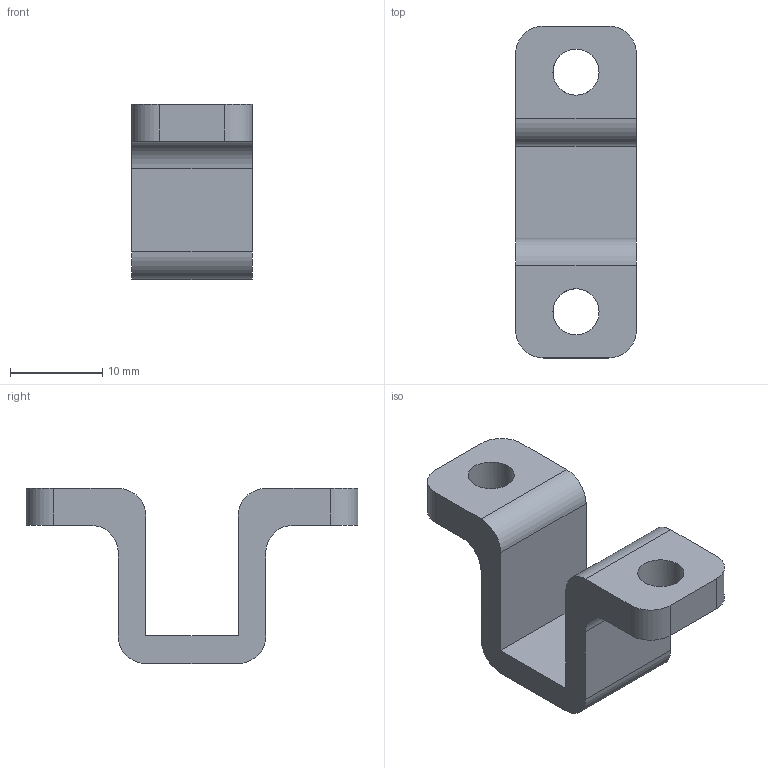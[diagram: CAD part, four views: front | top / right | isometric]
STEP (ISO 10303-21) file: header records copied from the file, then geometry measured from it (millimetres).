
FILE_DESCRIPTION(/* description */ ('STEP AP242 Edition 2','CAx-IF Rec.Pracs.---Representation and Presentation of Product Manufacturing Information (PMI)---4.0---2014-10-13','CAx-IF Rec.Pracs.---3D Tessellated Geometry---0.4---2014-09-14','2;1','CAx-IF Rec.Pracs.---User Defined Attributes---1.5---2016-08-15'),/* implementation_level */ '2;1');
FILE_NAME(/* name */ 'Part Studio 1 - Wheel Clamp L',/* time_stamp */ '2026-04-09T20:19:24Z',/* author */ (''),/* organization */ (''),/* preprocessor_version */ 'ST-DEVELOPER v20',/* originating_system */ 'ONSHAPE BY PTC INC, 1.213',/* authorisation */ ' ');
FILE_SCHEMA (('AP242_MANAGED_MODEL_BASED_3D_ENGINEERING_MIM_LF { 1 0 10303 442 3 1 4 }'));
Length unit declared in the file: metre
Products named in the file (1): Wheel Clamp L
Bounding box: 13.1 x 36 x 19 mm (x, y, z)
Volume: 2695.8 mm3; surface area: 2210.5 mm2
Topology: 1 solids, 1 shells, 26 faces, 78 edges, 52 vertices
Faces by surface type: plane 14, cylinder 12
Full cylindrical faces by diameter (mm): 5 x2
Entity records: 892 total; most frequent: CARTESIAN_POINT 159, DIRECTION 150, ORIENTED_EDGE 148, EDGE_CURVE 74, AXIS2_PLACEMENT_3D 51, VERTEX_POINT 50, LINE 48, VECTOR 48
